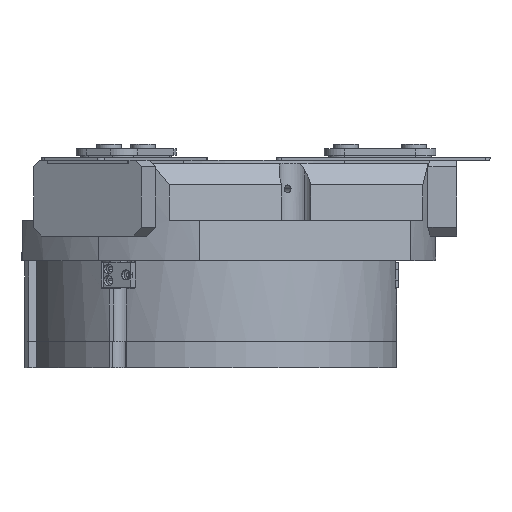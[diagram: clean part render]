
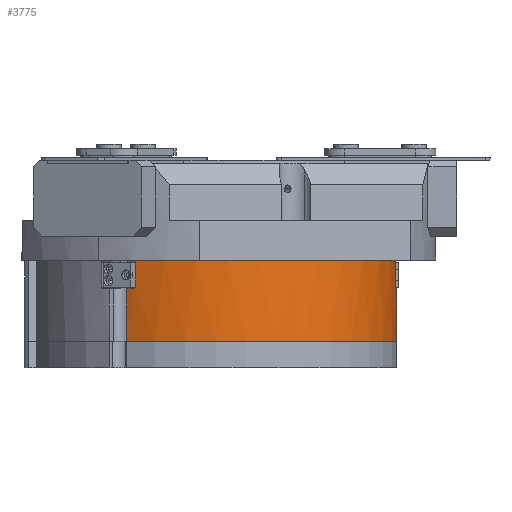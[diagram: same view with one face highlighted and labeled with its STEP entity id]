
A CAD part, front view. The second image highlights one B-rep face of the part: STEP entity #3775.
In plain terms, the highlighted cylindrical face has radius 120 mm (diameter 240 mm), a partial arc.
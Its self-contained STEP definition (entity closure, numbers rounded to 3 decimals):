
#70 = ORIENTED_EDGE ( 'NONE', *, *, #6513, .F. ) ;
#199 = DIRECTION ( 'NONE',  ( 0., 0., -1. ) ) ;
#364 = CARTESIAN_POINT ( 'NONE',  ( -107.02, 0., 54.283 ) ) ;
#489 = CARTESIAN_POINT ( 'NONE',  ( 0., 52., 0. ) ) ;
#1077 = CARTESIAN_POINT ( 'NONE',  ( -12.5, 34.868, -119.347 ) ) ;
#1121 = EDGE_CURVE ( 'NONE', #11501, #22401, #12485, .T. ) ;
#1233 = EDGE_CURVE ( 'NONE', #21592, #23525, #2399, .T. ) ;
#1262 = CARTESIAN_POINT ( 'NONE',  ( 0., 0., 0. ) ) ;
#1667 = CARTESIAN_POINT ( 'NONE',  ( -12.5, 35., -119.347 ) ) ;
#1676 = VERTEX_POINT ( 'NONE', #16303 ) ;
#1794 = CARTESIAN_POINT ( 'NONE',  ( -109.195, 34., 49.765 ) ) ;
#1870 = CARTESIAN_POINT ( 'NONE',  ( -109.608, 34.735, 48.848 ) ) ;
#2185 = CIRCLE ( 'NONE', #3570, 120. ) ;
#2232 = EDGE_LOOP ( 'NONE', ( #18373, #5459, #8371, #10883, #16726, #22865, #10691, #8287, #70, #4569, #14204, #24661 ) ) ;
#2399 = B_SPLINE_CURVE_WITH_KNOTS ( 'NONE', 3,
 ( #1794, #9875, #23898, #11874, #25926, #13880, #1870, #15885 ),
 .UNSPECIFIED., .F., .F.,
 ( 4, 2, 2, 4 ),
 ( 0., 0., 0.001, 0.002 ),
 .UNSPECIFIED. ) ;
#2492 = DIRECTION ( 'NONE',  ( 0., 0., -1. ) ) ;
#2543 = LINE ( 'NONE', #18180, #23250 ) ;
#2684 = CARTESIAN_POINT ( 'NONE',  ( -109.597, 51.262, 48.872 ) ) ;
#3306 = DIRECTION ( 'NONE',  ( 0., 0., -1. ) ) ;
#3365 = CARTESIAN_POINT ( 'NONE',  ( -11.5, 52., -119.448 ) ) ;
#3513 = VERTEX_POINT ( 'NONE', #364 ) ;
#3570 = AXIS2_PLACEMENT_3D ( 'NONE', #23509, #11495, #25544 ) ;
#3596 = LINE ( 'NONE', #22122, #13616 ) ;
#3775 = ADVANCED_FACE ( 'NONE', ( #22070 ), #21422, .T. ) ;
#4569 = ORIENTED_EDGE ( 'NONE', *, *, #13033, .T. ) ;
#4608 = EDGE_CURVE ( 'NONE', #23525, #19214, #2543, .T. ) ;
#5118 = CARTESIAN_POINT ( 'NONE',  ( -12.299, 34.384, -119.368 ) ) ;
#5370 = CARTESIAN_POINT ( 'NONE',  ( -12.003, 51.874, -119.398 ) ) ;
#5459 = ORIENTED_EDGE ( 'NONE', *, *, #12514, .T. ) ;
#5558 = EDGE_CURVE ( 'NONE', #13171, #1676, #2185, .T. ) ;
#5780 = DIRECTION ( 'NONE',  ( 0., -1., 0. ) ) ;
#6513 = EDGE_CURVE ( 'NONE', #19324, #3513, #14624, .T. ) ;
#6841 = CARTESIAN_POINT ( 'NONE',  ( -109.556, 51.505, 48.965 ) ) ;
#7072 = CARTESIAN_POINT ( 'NONE',  ( -6.5, 0., -119.824 ) ) ;
#7172 = CARTESIAN_POINT ( 'NONE',  ( -11.764, 34., -119.422 ) ) ;
#7314 = CARTESIAN_POINT ( 'NONE',  ( -109.195, 52., 49.765 ) ) ;
#7432 = CARTESIAN_POINT ( 'NONE',  ( -12.391, 51.524, -119.359 ) ) ;
#7764 = CARTESIAN_POINT ( 'NONE',  ( 0., 113.8, 0. ) ) ;
#7952 = AXIS2_PLACEMENT_3D ( 'NONE', #489, #14491, #2492 ) ;
#8287 = ORIENTED_EDGE ( 'NONE', *, *, #23920, .T. ) ;
#8371 = ORIENTED_EDGE ( 'NONE', *, *, #1121, .T. ) ;
#8865 = CARTESIAN_POINT ( 'NONE',  ( -109.411, 51.892, 49.287 ) ) ;
#9427 = CARTESIAN_POINT ( 'NONE',  ( -12.5, 51., -119.347 ) ) ;
#9494 = CARTESIAN_POINT ( 'NONE',  ( -109.608, 51., 48.848 ) ) ;
#9817 = CARTESIAN_POINT ( 'NONE',  ( -107.02, 52., 54.283 ) ) ;
#9875 = CARTESIAN_POINT ( 'NONE',  ( -109.25, 34., 49.644 ) ) ;
#9986 = VECTOR ( 'NONE', #10148, 1000. ) ;
#9996 = CARTESIAN_POINT ( 'NONE',  ( -109.195, 34., 49.765 ) ) ;
#10148 = DIRECTION ( 'NONE',  ( 0., -1., 0. ) ) ;
#10691 = ORIENTED_EDGE ( 'NONE', *, *, #18516, .T. ) ;
#10849 = CARTESIAN_POINT ( 'NONE',  ( -109.195, 52., 49.765 ) ) ;
#10881 = B_SPLINE_CURVE_WITH_KNOTS ( 'NONE', 3,
 ( #18801, #12780, #2684, #6841, #20846, #8865, #22873, #10849 ),
 .UNSPECIFIED., .F., .F.,
 ( 4, 2, 2, 4 ),
 ( 0., 0., 0.001, 0.002 ),
 .UNSPECIFIED. ) ;
#10883 = ORIENTED_EDGE ( 'NONE', *, *, #16220, .T. ) ;
#11315 = AXIS2_PLACEMENT_3D ( 'NONE', #24246, #12220, #199 ) ;
#11495 = DIRECTION ( 'NONE',  ( 0., -1., 0. ) ) ;
#11501 = VERTEX_POINT ( 'NONE', #15404 ) ;
#11874 = CARTESIAN_POINT ( 'NONE',  ( -109.403, 34.126, 49.304 ) ) ;
#12060 = CARTESIAN_POINT ( 'NONE',  ( -6.5, 113.8, -119.824 ) ) ;
#12220 = DIRECTION ( 'NONE',  ( 0., -1., 0. ) ) ;
#12485 = B_SPLINE_CURVE_WITH_KNOTS ( 'NONE', 3,
 ( #3365, #15338, #17356, #5370, #19381, #7432, #21423, #9427 ),
 .UNSPECIFIED., .F., .F.,
 ( 4, 2, 2, 4 ),
 ( 0., 0., 0.001, 0.002 ),
 .UNSPECIFIED. ) ;
#12514 = EDGE_CURVE ( 'NONE', #22493, #11501, #18761, .T. ) ;
#12640 = CARTESIAN_POINT ( 'NONE',  ( -11.5, 34., -119.448 ) ) ;
#12703 = EDGE_CURVE ( 'NONE', #20879, #13171, #22991, .T. ) ;
#12780 = CARTESIAN_POINT ( 'NONE',  ( -109.608, 51.132, 48.848 ) ) ;
#13033 = EDGE_CURVE ( 'NONE', #19324, #21592, #18119, .T. ) ;
#13088 = CARTESIAN_POINT ( 'NONE',  ( -12.474, 34.738, -119.35 ) ) ;
#13171 = VERTEX_POINT ( 'NONE', #12640 ) ;
#13616 = VECTOR ( 'NONE', #24139, 1000. ) ;
#13880 = CARTESIAN_POINT ( 'NONE',  ( -109.563, 34.476, 48.949 ) ) ;
#13933 = CARTESIAN_POINT ( 'NONE',  ( -107.02, 34., 54.283 ) ) ;
#14111 = AXIS2_PLACEMENT_3D ( 'NONE', #1262, #15289, #3306 ) ;
#14204 = ORIENTED_EDGE ( 'NONE', *, *, #1233, .T. ) ;
#14317 = EDGE_CURVE ( 'NONE', #19214, #22493, #10881, .T. ) ;
#14491 = DIRECTION ( 'NONE',  ( 0., -1., 0. ) ) ;
#14624 = LINE ( 'NONE', #9817, #25062 ) ;
#14829 = CIRCLE ( 'NONE', #14111, 120. ) ;
#14975 = CARTESIAN_POINT ( 'NONE',  ( -12.5, 51., -119.347 ) ) ;
#15077 = CARTESIAN_POINT ( 'NONE',  ( -12.5, 35., -119.347 ) ) ;
#15289 = DIRECTION ( 'NONE',  ( 0., 1., 0. ) ) ;
#15338 = CARTESIAN_POINT ( 'NONE',  ( -11.632, 52., -119.435 ) ) ;
#15404 = CARTESIAN_POINT ( 'NONE',  ( -11.5, 52., -119.448 ) ) ;
#15596 = AXIS2_PLACEMENT_3D ( 'NONE', #7764, #17700, #19725 ) ;
#15885 = CARTESIAN_POINT ( 'NONE',  ( -109.608, 35., 48.848 ) ) ;
#16220 = EDGE_CURVE ( 'NONE', #22401, #20879, #3596, .T. ) ;
#16303 = CARTESIAN_POINT ( 'NONE',  ( -6.5, 34., -119.824 ) ) ;
#16726 = ORIENTED_EDGE ( 'NONE', *, *, #12703, .T. ) ;
#17089 = CARTESIAN_POINT ( 'NONE',  ( -12.373, 34.495, -119.36 ) ) ;
#17356 = CARTESIAN_POINT ( 'NONE',  ( -11.761, 51.974, -119.422 ) ) ;
#17700 = DIRECTION ( 'NONE',  ( 0., -1., 0. ) ) ;
#18119 = CIRCLE ( 'NONE', #11315, 120. ) ;
#18180 = CARTESIAN_POINT ( 'NONE',  ( -109.608, 113.8, 48.848 ) ) ;
#18373 = ORIENTED_EDGE ( 'NONE', *, *, #14317, .T. ) ;
#18516 = EDGE_CURVE ( 'NONE', #1676, #24489, #25986, .T. ) ;
#18761 = CIRCLE ( 'NONE', #7952, 120. ) ;
#18801 = CARTESIAN_POINT ( 'NONE',  ( -109.608, 51., 48.848 ) ) ;
#19114 = CARTESIAN_POINT ( 'NONE',  ( -12.022, 34.108, -119.396 ) ) ;
#19214 = VERTEX_POINT ( 'NONE', #9494 ) ;
#19324 = VERTEX_POINT ( 'NONE', #13933 ) ;
#19381 = CARTESIAN_POINT ( 'NONE',  ( -12.114, 51.8, -119.387 ) ) ;
#19725 = DIRECTION ( 'NONE',  ( 0., 0., -1. ) ) ;
#20846 = CARTESIAN_POINT ( 'NONE',  ( -109.525, 51.616, 49.033 ) ) ;
#20879 = VERTEX_POINT ( 'NONE', #1667 ) ;
#21165 = CARTESIAN_POINT ( 'NONE',  ( -11.5, 34., -119.448 ) ) ;
#21422 = CYLINDRICAL_SURFACE ( 'NONE', #15596, 120. ) ;
#21423 = CARTESIAN_POINT ( 'NONE',  ( -12.5, 51.265, -119.347 ) ) ;
#21592 = VERTEX_POINT ( 'NONE', #9996 ) ;
#22070 = FACE_OUTER_BOUND ( 'NONE', #2232, .T. ) ;
#22122 = CARTESIAN_POINT ( 'NONE',  ( -12.5, 113.8, -119.347 ) ) ;
#22401 = VERTEX_POINT ( 'NONE', #14975 ) ;
#22493 = VERTEX_POINT ( 'NONE', #7314 ) ;
#22865 = ORIENTED_EDGE ( 'NONE', *, *, #5558, .T. ) ;
#22873 = CARTESIAN_POINT ( 'NONE',  ( -109.305, 52., 49.524 ) ) ;
#22991 = B_SPLINE_CURVE_WITH_KNOTS ( 'NONE', 3,
 ( #15077, #1077, #13088, #17089, #5118, #19114, #7172, #21165 ),
 .UNSPECIFIED., .F., .F.,
 ( 4, 2, 2, 4 ),
 ( 0., 0., 0.001, 0.002 ),
 .UNSPECIFIED. ) ;
#23250 = VECTOR ( 'NONE', #24269, 1000. ) ;
#23463 = CARTESIAN_POINT ( 'NONE',  ( -109.608, 35., 48.848 ) ) ;
#23509 = CARTESIAN_POINT ( 'NONE',  ( 0., 34., 0. ) ) ;
#23525 = VERTEX_POINT ( 'NONE', #23463 ) ;
#23898 = CARTESIAN_POINT ( 'NONE',  ( -109.303, 34.026, 49.526 ) ) ;
#23920 = EDGE_CURVE ( 'NONE', #24489, #3513, #14829, .T. ) ;
#24139 = DIRECTION ( 'NONE',  ( 0., -1., 0. ) ) ;
#24246 = CARTESIAN_POINT ( 'NONE',  ( 0., 34., 0. ) ) ;
#24269 = DIRECTION ( 'NONE',  ( 0., 1., 0. ) ) ;
#24489 = VERTEX_POINT ( 'NONE', #7072 ) ;
#24661 = ORIENTED_EDGE ( 'NONE', *, *, #4608, .T. ) ;
#25062 = VECTOR ( 'NONE', #5780, 1000. ) ;
#25544 = DIRECTION ( 'NONE',  ( 0., 0., -1. ) ) ;
#25926 = CARTESIAN_POINT ( 'NONE',  ( -109.449, 34.2, 49.203 ) ) ;
#25986 = LINE ( 'NONE', #12060, #9986 ) ;
